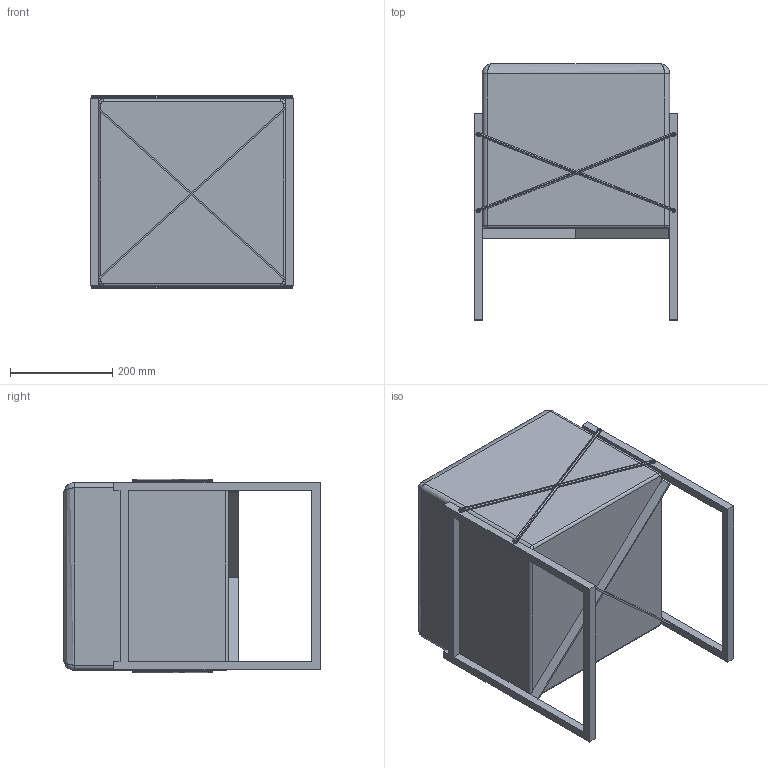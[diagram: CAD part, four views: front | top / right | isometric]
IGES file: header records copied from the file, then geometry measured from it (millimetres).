
Start section: SolidWorks IGES file using analytic representation for surfaces
Global section: file name: C:\Users\hcaixa\Documents\Gabinete Tecnico\72_produtos cliente\Timsteel\Estantes\Estantes  Q16\Q16 versão catalogo\Assemblys\IGS\Novas Peças\Pouf 450.IGS; native system: SolidWorks 2014; preprocessor: SolidWorks 2014; author: hcaixa; date: 190704.122702; units: millimetre
Bounding box: 399 x 502 x 379 mm (x, y, z)
Surface area: 989721.7 mm2 (no closed solid volume)
Topology: 0 solids, 0 shells, 312 faces, 3302 edges, 3298 vertices
Faces by surface type: bspline 156, revolution 156
